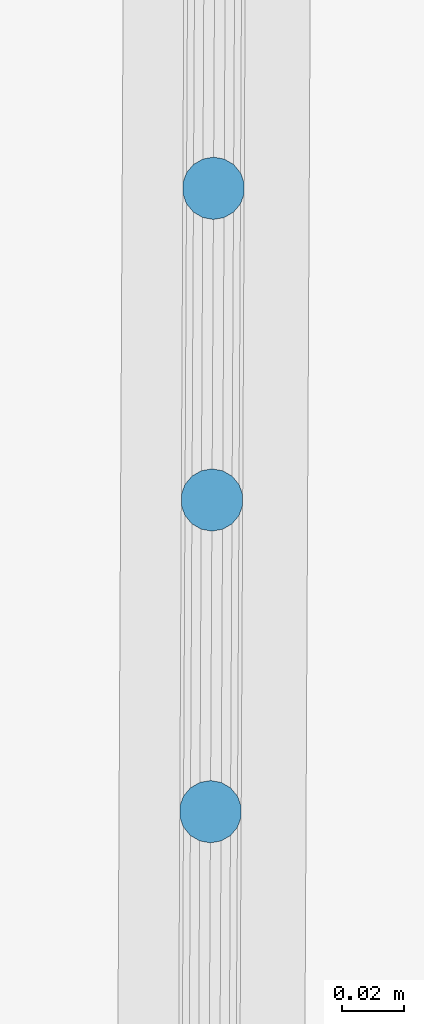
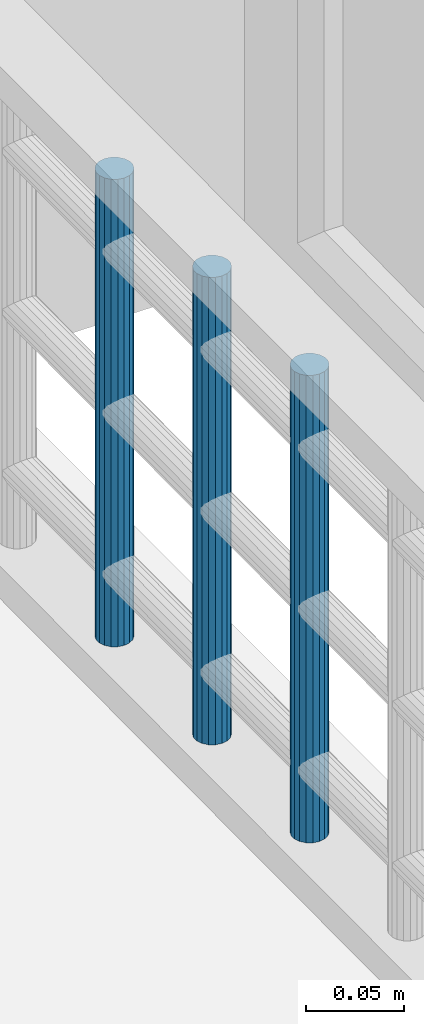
# One storey, part 31 of 66: 3 members, 1 element without a shape of its own.
"""IFC2X3 building model written with IfcOpenShell, lengths in centimetres."""

from ifc_helpers import new_model, entity, si_unit, converted_unit, direction, frame, origin, origin_with_axes, place, context, subcontext, project, spatial, faceted_brep, material, type_object, element, aggregate, save


model = new_model("IFC2X3")

# Units and contexts
model_context = context("Model", 3, precision=0.0001, world=origin(), true_north=direction((0.225632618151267, 0.974212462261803, 0.0)))
body_context = subcontext(model_context, "Body", "Model", "MODEL_VIEW")
ifc_project = project(units=[si_unit("LENGTHUNIT", "METRE", prefix="CENTI"), si_unit("AREAUNIT", "SQUARE_METRE", prefix="CENTI"), si_unit("VOLUMEUNIT", "CUBIC_METRE", prefix="CENTI"), converted_unit("PLANEANGLEUNIT", "DEGREE", entity("IfcRatioMeasure", 0.0174532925), si_unit("PLANEANGLEUNIT", "RADIAN"), dimensions=[0, 0, 0, 0, 0, 0, 0])], contexts=[model_context])

# Site, building, storey
site_placement = place(None, origin_with_axes())
site = spatial("IfcSite", under=ifc_project, at=site_placement, Name="Default Site", CompositionType="ELEMENT")
building_placement = place(site_placement, origin_with_axes())
building = spatial("IfcBuilding", under=site, at=building_placement, Name="Default Building", CompositionType="ELEMENT")
storey_placement = place(building_placement, frame((0.0, 0.0, 477.795358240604), z_axis=(0.0, 0.0, 1.0), x_axis=(1.0, 0.0, 0.0)))
storey = spatial("IfcBuildingStorey", under=building, at=storey_placement, Name="Niveau 1", CompositionType="ELEMENT", Elevation=477.795358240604)

# Assembly, members
building_element_proxy_type = type_object("IfcBuildingElementProxyType", Name="Type Object", PredefinedType="NOTDEFINED")
assembly_placement = place(storey_placement, frame((1065.11691205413, 138.297750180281, 9.99999999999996), z_axis=(0.0, 0.0, 1.0), x_axis=(-0.00486371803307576, -0.999988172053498, 0.0)))
assembly = element("IfcElementAssembly", 1, at=assembly_placement, inside=storey, type_object=building_element_proxy_type, Name="Panneau 1702029", ObjectType="Precast panel", PredefinedType="USERDEFINED")
ifc_material = material(Name="Aluminium satiné")
member_1_placement = place(assembly_placement, frame((48.4396934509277, 0.342020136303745, 31.0000002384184), z_axis=(0.0, 0.0, 1.0), x_axis=(0.500002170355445, -0.866024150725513, 0.0)))
member_1 = element("IfcMember", 2, at=member_1_placement, material=ifc_material, Name="4294967053", context=body_context, shape_type="Brep", body=[
    faceted_brep([(-2.692290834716e-13, 1.22124532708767e-13, -2.22044604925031e-14), (-0.347296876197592, 5.55111512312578e-14, -2.22044604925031e-14), (-0.673649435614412, -0.118782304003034, -2.22044604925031e-14), (-0.939693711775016, -0.342018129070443, -2.22044604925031e-14), (-1.11334216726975, -0.642784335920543, -2.22044604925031e-14), (-1.17365112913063, -0.984805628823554, -2.22044604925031e-14), (-1.11334505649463, -1.32682669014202, -2.22044604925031e-14), (-0.939696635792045, -1.62759289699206, -2.22044604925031e-14), (-0.673653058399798, -1.8508318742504, -2.22044604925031e-14), (-0.347301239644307, -1.96961451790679, -2.22044604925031e-14), (-5.85356957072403e-06, -1.96961709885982, -2.22044604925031e-14), (0.32634670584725, -1.85083479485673, -2.22044604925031e-14), (0.59239247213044, -1.62759638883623, -2.22044604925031e-14), (0.766040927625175, -1.32683018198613, -2.22044604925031e-14), (0.826348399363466, -0.984811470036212, -2.22044604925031e-14), (0.76604232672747, -0.642790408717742, -2.22044604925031e-14), (0.592395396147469, -0.342021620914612, -2.22044604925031e-14), (0.326351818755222, -0.118782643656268, -2.22044604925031e-14), (0.326351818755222, -0.118782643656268, -29.0000002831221), (0.592395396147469, -0.342021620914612, -29.0000002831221), (0.76604232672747, -0.642790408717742, -29.0000002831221), (0.826348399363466, -0.984811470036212, -29.0000002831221), (0.766040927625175, -1.32683018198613, -29.0000002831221), (0.59239247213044, -1.62759638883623, -29.0000002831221), (0.32634670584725, -1.85083479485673, -29.0000002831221), (-5.85356957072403e-06, -1.96961709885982, -29.0000002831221), (-0.347301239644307, -1.96961451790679, -29.0000002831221), (-0.673653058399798, -1.8508318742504, -29.0000002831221), (-0.939696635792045, -1.62759289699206, -29.0000002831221), (-1.11334505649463, -1.32682669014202, -29.0000002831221), (-1.17365112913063, -0.984805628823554, -29.0000002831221), (-1.11334216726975, -0.642784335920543, -29.0000002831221), (-0.939693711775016, -0.342018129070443, -29.0000002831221), (-0.673649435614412, -0.118782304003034, -29.0000002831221), (-0.347296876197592, 5.55111512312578e-14, -29.0000002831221), (-2.692290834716e-13, 1.22124532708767e-13, -29.0000002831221), (0.592395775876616, -0.342021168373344, -2.22044604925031e-14), (0.592395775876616, -0.342021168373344, -29.0000002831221), (0.766043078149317, -0.642789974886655, -2.22044604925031e-14), (0.766043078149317, -0.642789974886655, -29.0000002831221), (0.826348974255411, -0.984811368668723, -2.22044604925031e-14), (0.826348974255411, -0.984811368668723, -29.0000002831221), (0.76604040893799, -1.32683009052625, -2.22044604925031e-14), (0.76604040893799, -1.32683009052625, -29.0000002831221), (0.326346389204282, -1.85083441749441, -2.22044604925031e-14), (0.326346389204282, -1.85083441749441, -29.0000002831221), (-6.05322597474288e-06, -1.96961655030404, -2.22044604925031e-14), (-6.05322597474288e-06, -1.96961655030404, -29.0000002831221), (-0.347301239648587, -1.96961623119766, -2.22044604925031e-14), (-0.347301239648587, -1.96961623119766, -29.0000002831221), (-0.673652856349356, -1.8508313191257, -2.22044604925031e-14), (-0.673652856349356, -1.8508313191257, -29.0000002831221), (-0.939697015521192, -1.62759334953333, -2.22044604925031e-14), (-0.939697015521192, -1.62759334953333, -29.0000002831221), (-1.11334357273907, -1.32682583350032, -2.22044604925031e-14), (-1.11334357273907, -1.32682583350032, -29.0000002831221), (-1.17365170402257, -0.984805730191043, -2.22044604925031e-14), (-1.17365170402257, -0.984805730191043, -29.0000002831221), (-1.11334265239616, -0.64278425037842, -2.22044604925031e-14), (-1.11334265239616, -0.64278425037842, -29.0000002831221), (-0.673649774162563, -0.118781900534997, -2.22044604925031e-14), (-0.673649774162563, -0.118781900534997, -29.0000002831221), (-0.347296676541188, -5.48555722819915e-07, -2.22044604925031e-14), (-0.347296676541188, -5.48555722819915e-07, -29.0000002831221), (-2.43695416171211e-12, -8.67665830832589e-07, -2.22044604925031e-14), (-2.43695416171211e-12, -8.67665830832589e-07, -29.0000002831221), (0.32635161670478, -0.118783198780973, -2.22044604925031e-14), (0.32635161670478, -0.118783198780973, -29.0000002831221)], [[[0, 1, 2, 3, 4, 5, 6, 7, 8, 9, 10, 11, 12, 13, 14, 15, 16, 17]], [[18, 19, 20, 21, 22, 23, 24, 25, 26, 27, 28, 29, 30, 31, 32, 33, 34, 35]], [[17, 36, 37, 18]], [[16, 38, 39, 19]], [[15, 40, 41, 20]], [[14, 42, 43, 21]], [[13, 12, 23, 22]], [[12, 44, 45, 23]], [[11, 46, 47, 24]], [[10, 48, 49, 25]], [[9, 50, 51, 26]], [[8, 52, 53, 27]], [[7, 54, 55, 28]], [[6, 56, 57, 29]], [[5, 58, 59, 30]], [[4, 3, 32, 31]], [[3, 60, 61, 32]], [[2, 62, 63, 33]], [[1, 64, 65, 34]], [[0, 66, 67, 35]]]),
])
member_2_placement = place(assembly_placement, frame((58.4396898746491, 0.342020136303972, 31.0000002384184), z_axis=(0.0, 0.0, 1.0), x_axis=(0.499995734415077, -0.866027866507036, 0.0)))
member_2 = element("IfcMember", 3, at=member_2_placement, material=ifc_material, Name="4294967052", context=body_context, shape_type="Brep", body=[
    faceted_brep([(-1.11022302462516e-14, 9.99200722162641e-14, -8.32667268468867e-14), (-0.347295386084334, 1.55431223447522e-13, -8.32667268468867e-14), (-0.673647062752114, -0.118784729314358, -8.32667268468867e-14), (-0.939688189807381, -0.342019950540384, -8.32667268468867e-14), (-1.11333590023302, -0.642790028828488, -8.32667268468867e-14), (-1.1736423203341, -0.984811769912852, -8.32667268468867e-14), (-1.11333370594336, -1.32683238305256, -8.32667268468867e-14), (-0.939683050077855, -1.6275972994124, -8.32667268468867e-14), (-0.673637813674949, -1.85083429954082, -8.32667268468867e-14), (-0.347285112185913, -1.96961451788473, -8.32667268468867e-14), (1.02738984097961e-05, -1.96961451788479, -8.32667268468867e-14), (0.32636195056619, -1.85082978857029, -8.32667268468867e-14), (0.592406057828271, -1.62758940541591, -8.32667268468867e-14), (0.76605376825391, -1.3268193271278, -8.32667268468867e-14), (0.826357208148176, -0.984802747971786, -8.32667268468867e-14), (0.76604859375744, -0.642782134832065, -8.32667268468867e-14), (0.592397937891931, -0.342017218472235, -8.32667268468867e-14), (0.326352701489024, -0.118780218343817, -8.32667268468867e-14), (0.326352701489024, -0.118780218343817, -29.0000002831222), (0.592397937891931, -0.342017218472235, -29.0000002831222), (0.76604859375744, -0.642782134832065, -29.0000002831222), (0.826357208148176, -0.984802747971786, -29.0000002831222), (0.76605376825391, -1.3268193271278, -29.0000002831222), (0.592406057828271, -1.62758940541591, -29.0000002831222), (0.32636195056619, -1.85082978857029, -29.0000002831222), (1.02738984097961e-05, -1.96961451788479, -29.0000002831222), (-0.347285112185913, -1.96961451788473, -29.0000002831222), (-0.673637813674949, -1.85083429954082, -29.0000002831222), (-0.939683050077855, -1.6275972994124, -29.0000002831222), (-1.11333370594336, -1.32683238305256, -29.0000002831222), (-1.1736423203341, -0.984811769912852, -29.0000002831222), (-1.11333590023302, -0.642790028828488, -29.0000002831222), (-0.939688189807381, -0.342019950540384, -29.0000002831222), (-0.673647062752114, -0.118784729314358, -29.0000002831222), (-0.347295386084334, 1.55431223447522e-13, -29.0000002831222), (-1.11022302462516e-14, 9.99200722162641e-14, -29.0000002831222), (0.592398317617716, -0.342016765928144, -8.32667268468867e-14), (0.592398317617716, -0.342016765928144, -29.0000002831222), (0.766047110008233, -0.642782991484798, -8.32667268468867e-14), (0.766047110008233, -0.642782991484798, -29.0000002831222), (0.82635778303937, -0.984802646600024, -8.32667268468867e-14), (0.82635778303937, -0.984802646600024, -29.0000002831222), (0.766052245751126, -1.32681905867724, -8.32667268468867e-14), (0.766052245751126, -1.32681905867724, -29.0000002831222), (0.592406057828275, -1.62758940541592, -8.32667268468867e-14), (0.592406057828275, -1.62758940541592, -29.0000002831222), (0.326361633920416, -1.85082941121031, -8.32667268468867e-14), (0.326361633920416, -1.85082941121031, -29.0000002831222), (1.00742379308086e-05, -1.9696139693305, -8.32667268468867e-14), (1.00742379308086e-05, -1.9696139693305, -29.0000002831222), (-0.347285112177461, -1.9696162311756, -8.32667268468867e-14), (-0.347285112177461, -1.9696162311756, -29.0000002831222), (-0.67363761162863, -1.85083374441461, -8.32667268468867e-14), (-0.67363761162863, -1.85083374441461, -29.0000002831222), (-0.939683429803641, -1.62759775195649, -8.32667268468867e-14), (-0.939683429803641, -1.62759775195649, -29.0000002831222), (-1.11333222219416, -1.32683152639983, -8.32667268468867e-14), (-1.11333222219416, -1.32683152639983, -29.0000002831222), (-1.17364289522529, -0.984811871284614, -8.32667268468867e-14), (-1.17364289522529, -0.984811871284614, -29.0000002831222), (-1.11333638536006, -0.642789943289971, -8.32667268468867e-14), (-1.11333638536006, -0.642789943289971, -29.0000002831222), (-0.939688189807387, -0.34201995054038, -8.32667268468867e-14), (-0.939688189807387, -0.34201995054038, -29.0000002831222), (-0.673648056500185, -0.118783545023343, -8.32667268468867e-14), (-0.673648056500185, -0.118783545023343, -29.0000002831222), (-0.347295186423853, -5.48554139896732e-07, -8.32667268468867e-14), (-0.347295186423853, -5.48554139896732e-07, -29.0000002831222), (-8.46317382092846e-12, 1.71329095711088e-06, -8.32667268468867e-14), (-8.46317382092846e-12, 1.71329095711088e-06, -29.0000002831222), (0.32635249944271, -0.11878077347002, -8.32667268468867e-14), (0.32635249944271, -0.11878077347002, -29.0000002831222)], [[[0, 1, 2, 3, 4, 5, 6, 7, 8, 9, 10, 11, 12, 13, 14, 15, 16, 17]], [[18, 19, 20, 21, 22, 23, 24, 25, 26, 27, 28, 29, 30, 31, 32, 33, 34, 35]], [[17, 36, 37, 18]], [[16, 38, 39, 19]], [[15, 40, 41, 20]], [[14, 42, 43, 21]], [[13, 44, 45, 22]], [[12, 46, 47, 23]], [[11, 48, 49, 24]], [[10, 50, 51, 25]], [[9, 52, 53, 26]], [[8, 54, 55, 27]], [[7, 56, 57, 28]], [[6, 58, 59, 29]], [[5, 60, 61, 30]], [[4, 62, 63, 31]], [[3, 64, 65, 32]], [[2, 66, 67, 33]], [[1, 68, 69, 34]], [[0, 70, 71, 35]]]),
])
member_3_placement = place(assembly_placement, frame((68.4396922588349, 0.342020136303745, 31.0000002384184), z_axis=(0.0, 0.0, 1.0), x_axis=(0.499995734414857, -0.866027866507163, 0.0)))
member_3 = element("IfcMember", 4, at=member_3_placement, material=ifc_material, Name="4294967051", context=body_context, shape_type="Brep", body=[
    faceted_brep([(-2.88657986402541e-13, 8.88178419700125e-14, -9.43689570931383e-14), (-0.347295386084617, 6.66133814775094e-14, -9.43689570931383e-14), (-0.673647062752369, -0.118784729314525, -9.43689570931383e-14), (-0.93969117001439, -0.342025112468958, -9.43689570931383e-14), (-1.11333888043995, -0.642795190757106, -9.43689570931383e-14), (-1.17364232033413, -0.984811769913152, -9.43689570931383e-14), (-1.11333370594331, -1.32683238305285, -9.43689570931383e-14), (-0.939683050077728, -1.62759729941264, -9.43689570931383e-14), (-0.67363781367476, -1.85083429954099, -9.43689570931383e-14), (-0.347285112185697, -1.96961451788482, -9.43689570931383e-14), (1.02738986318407e-05, -1.9696145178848, -9.43689570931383e-14), (0.326361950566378, -1.8508297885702, -9.43689570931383e-14), (0.592403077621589, -1.6275945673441, -9.43689570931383e-14), (0.766050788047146, -1.32682448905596, -9.43689570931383e-14), (0.826357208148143, -0.984802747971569, -9.43689570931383e-14), (0.766048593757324, -0.642782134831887, -9.43689570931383e-14), (0.592397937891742, -0.34201721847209, -9.43689570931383e-14), (0.326352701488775, -0.118780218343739, -9.43689570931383e-14), (0.326352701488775, -0.118780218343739, -29.0000002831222), (0.592397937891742, -0.34201721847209, -29.0000002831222), (0.766048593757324, -0.642782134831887, -29.0000002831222), (0.826357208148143, -0.984802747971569, -29.0000002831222), (0.766050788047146, -1.32682448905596, -29.0000002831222), (0.592403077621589, -1.6275945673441, -29.0000002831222), (0.326361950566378, -1.8508297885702, -29.0000002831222), (1.02738986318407e-05, -1.9696145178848, -29.0000002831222), (-0.347285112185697, -1.96961451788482, -29.0000002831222), (-0.67363781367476, -1.85083429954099, -29.0000002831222), (-0.939683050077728, -1.62759729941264, -29.0000002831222), (-1.11333370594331, -1.32683238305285, -29.0000002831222), (-1.17364232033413, -0.984811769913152, -29.0000002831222), (-1.11333888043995, -0.642795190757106, -29.0000002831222), (-0.93969117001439, -0.342025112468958, -29.0000002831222), (-0.673647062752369, -0.118784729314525, -29.0000002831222), (-0.347295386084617, 6.66133814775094e-14, -29.0000002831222), (-2.88657986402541e-13, 8.88178419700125e-14, -29.0000002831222), (0.592398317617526, -0.342016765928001, -9.43689570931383e-14), (0.592398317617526, -0.342016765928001, -29.0000002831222), (0.766047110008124, -0.642782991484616, -9.43689570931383e-14), (0.766047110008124, -0.642782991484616, -29.0000002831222), (0.826357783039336, -0.984802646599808, -9.43689570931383e-14), (0.826357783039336, -0.984802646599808, -29.0000002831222), (0.76605127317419, -1.32682457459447, -9.43689570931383e-14), (0.76605127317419, -1.32682457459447, -29.0000002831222), (0.59240307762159, -1.6275945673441, -9.43689570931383e-14), (0.59240307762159, -1.6275945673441, -29.0000002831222), (0.32636294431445, -1.85083097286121, -9.43689570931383e-14), (0.32636294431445, -1.85083097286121, -29.0000002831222), (1.00742381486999e-05, -1.9696139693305, -9.43689570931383e-14), (1.00742381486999e-05, -1.9696139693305, -29.0000002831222), (-0.347285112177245, -1.96961623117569, -9.43689570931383e-14), (-0.347285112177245, -1.96961623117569, -29.0000002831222), (-0.673637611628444, -1.85083374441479, -9.43689570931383e-14), (-0.673637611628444, -1.85083374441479, -29.0000002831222), (-0.939683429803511, -1.62759775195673, -9.43689570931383e-14), (-0.939683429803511, -1.62759775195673, -29.0000002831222), (-1.11333222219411, -1.32683152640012, -9.43689570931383e-14), (-1.11333222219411, -1.32683152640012, -29.0000002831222), (-1.17364289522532, -0.984811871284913, -9.43689570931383e-14), (-1.17364289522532, -0.984811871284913, -29.0000002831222), (-1.11333735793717, -0.642795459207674, -9.43689570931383e-14), (-1.11333735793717, -0.642795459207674, -29.0000002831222), (-0.939691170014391, -0.342025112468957, -9.43689570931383e-14), (-0.939691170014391, -0.342025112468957, -29.0000002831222), (-0.673646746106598, -0.118785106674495, -9.43689570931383e-14), (-0.673646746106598, -0.118785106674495, -29.0000002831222), (-0.347295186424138, -5.48554223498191e-07, -9.43689570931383e-14), (-0.347295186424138, -5.48554223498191e-07, -29.0000002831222), (-8.74073006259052e-12, 1.71329095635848e-06, -9.43689570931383e-14), (-8.74073006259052e-12, 1.71329095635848e-06, -29.0000002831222), (0.326352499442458, -0.118780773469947, -9.43689570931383e-14), (0.326352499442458, -0.118780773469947, -29.0000002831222)], [[[0, 1, 2, 3, 4, 5, 6, 7, 8, 9, 10, 11, 12, 13, 14, 15, 16, 17]], [[18, 19, 20, 21, 22, 23, 24, 25, 26, 27, 28, 29, 30, 31, 32, 33, 34, 35]], [[17, 36, 37, 18]], [[16, 38, 39, 19]], [[15, 40, 41, 20]], [[14, 42, 43, 21]], [[13, 44, 45, 22]], [[12, 46, 47, 23]], [[11, 48, 49, 24]], [[10, 50, 51, 25]], [[9, 52, 53, 26]], [[8, 54, 55, 27]], [[7, 56, 57, 28]], [[6, 58, 59, 29]], [[5, 60, 61, 30]], [[4, 62, 63, 31]], [[3, 64, 65, 32]], [[2, 66, 67, 33]], [[1, 68, 69, 34]], [[0, 70, 71, 35]]]),
])
aggregate(assembly, [member_1, member_2, member_3])

save(model, "model.ifc")
